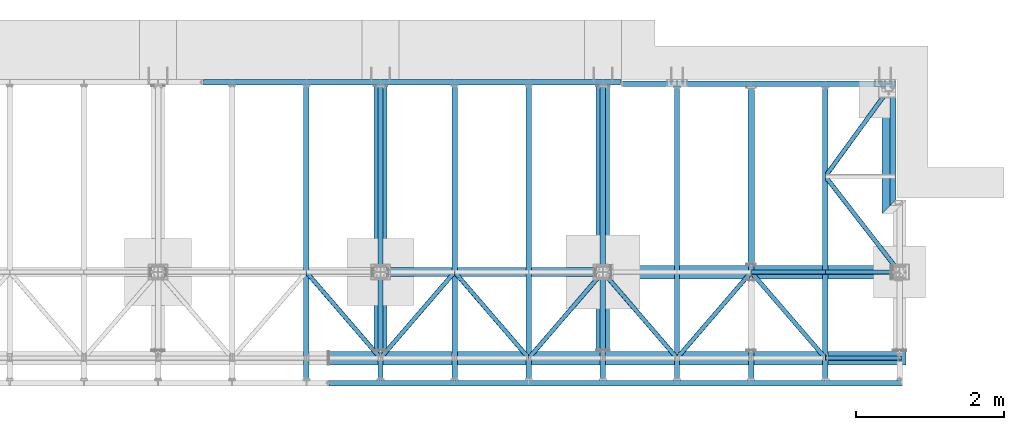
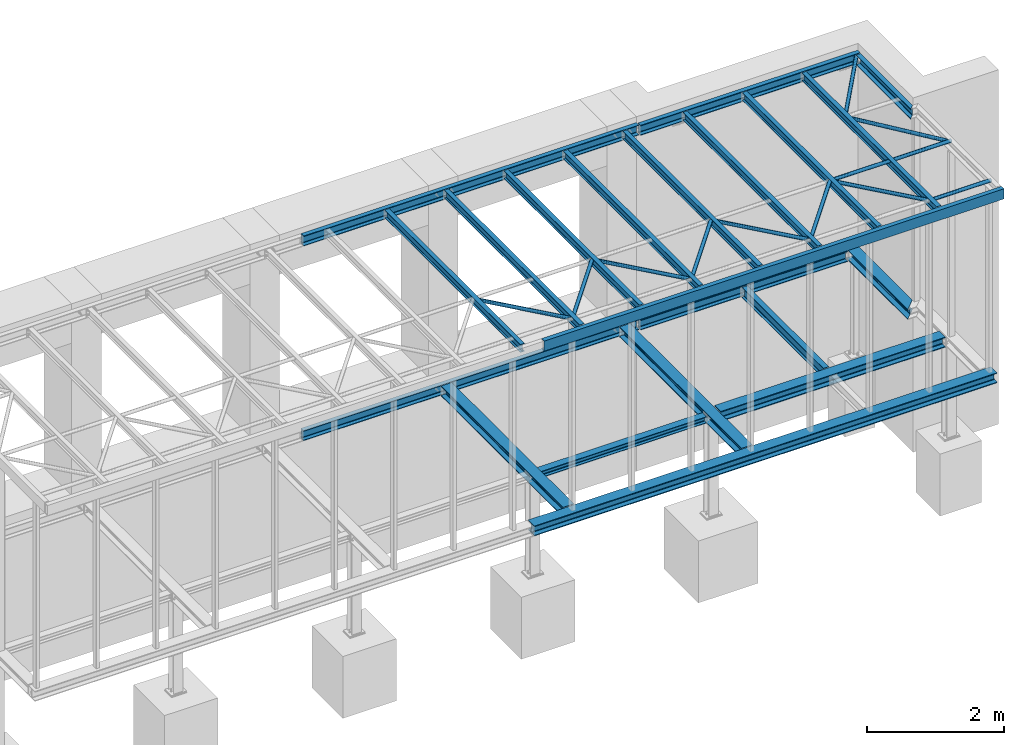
# One storey, part 4 of 22: 33 beams, 33 elements without a shape of their own.
"""IFC2X3 building model written with IfcOpenShell, lengths in millimetres."""

from ifc_helpers import new_model, si_unit, frame, origin_with_axes, origin_2d_with_axis, place, context, subcontext, project, spatial, hollow_circle, i_section, u_section, extrude, boolean, clip, halfspace, material, type_object, element, aggregate, save


model = new_model("IFC2X3")

# Units and contexts
model_context = context("Model", 3, precision=1e-05, world=origin_with_axes())
body_context = subcontext(model_context, "Body", "Model", "MODEL_VIEW")
ifc_project = project(units=[si_unit("LENGTHUNIT", "METRE", prefix="MILLI"), si_unit("AREAUNIT", "SQUARE_METRE"), si_unit("VOLUMEUNIT", "CUBIC_METRE"), si_unit("MASSUNIT", "GRAM", prefix="KILO"), si_unit("TIMEUNIT", "SECOND"), si_unit("PLANEANGLEUNIT", "RADIAN"), si_unit("SOLIDANGLEUNIT", "STERADIAN"), si_unit("THERMODYNAMICTEMPERATUREUNIT", "DEGREE_CELSIUS"), si_unit("LUMINOUSINTENSITYUNIT", "LUMEN")], contexts=[model_context])

# Site, building, storey
site_placement = place(None, origin_with_axes())
site = spatial("IfcSite", under=ifc_project, at=site_placement, Name="Undefined", CompositionType="ELEMENT")
building_placement = place(site_placement, origin_with_axes())
building = spatial("IfcBuilding", under=site, at=building_placement, Name="Undefined", CompositionType="ELEMENT")
storey_placement = place(building_placement, origin_with_axes())
storey = spatial("IfcBuildingStorey", under=building, at=storey_placement, Name="Undefined", CompositionType="ELEMENT", Elevation=0.0)

# Assembly, beam
assembly_1_placement = place(storey_placement, origin_with_axes())
assembly_1 = element("IfcElementAssembly", 1, at=assembly_1_placement, inside=storey, Name="Steel Assembly", AssemblyPlace="NOTDEFINED", PredefinedType="RIGID_FRAME")
ifc_material = material(Name="STEEL/S235JR")
beam_type_1 = type_object("IfcBeamType", Name="IPE180", PredefinedType="NOTDEFINED")
beam_1_placement = place(assembly_1_placement, frame((14050.0, 1370.0, -250.0), z_axis=(0.0, 0.0, 1.0), x_axis=(0.0, 1.0, 0.0)))
beam_1 = element("IfcBeam", 2, at=beam_1_placement, type_object=beam_type_1, material=ifc_material, Name="NOSNÍK", ObjectType="IPE180", context=body_context, shape_type="SweptSolid", body=[
    extrude(i_section(OverallWidth=91.0, OverallDepth=180.0, WebThickness=5.300000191, FlangeThickness=8.0, FilletRadius=9.0, at=origin_2d_with_axis()), frame((2375.0, 0.0, 0.0), z_axis=(-1.0, 0.0, 0.0), x_axis=(0.0, -1.0, 0.0)), (0.0, 0.0, 1.0), 2375.0),
])
aggregate(assembly_1, [beam_1])

assembly_2_placement = place(storey_placement, origin_with_axes())
assembly_2 = element("IfcElementAssembly", 3, at=assembly_2_placement, inside=storey, Name="Steel Assembly", AssemblyPlace="NOTDEFINED", PredefinedType="RIGID_FRAME")
beam_type_2 = type_object("IfcBeamType", Name="HEB180", PredefinedType="NOTDEFINED")
beam_2_placement = place(assembly_2_placement, frame((8360.0, 100.0, -250.0), z_axis=(0.0, 0.0, -1.0), x_axis=(1.0, 0.0, 0.0)))
beam_2 = element("IfcBeam", 4, at=beam_2_placement, type_object=beam_type_2, material=ifc_material, Name="NOSNÍK", ObjectType="HEB180", context=body_context, shape_type="SweptSolid", body=[
    extrude(i_section(OverallWidth=180.0, OverallDepth=180.0, WebThickness=8.5, FlangeThickness=14.0, FilletRadius=15.0, at=origin_2d_with_axis()), frame((7780.0, 0.0, 0.0), z_axis=(-1.0, 0.0, 0.0), x_axis=(0.0, -1.0, 0.0)), (0.0, 0.0, 1.0), 7780.0),
])
aggregate(assembly_2, [beam_2])

assembly_3_placement = place(storey_placement, origin_with_axes())
assembly_3 = element("IfcElementAssembly", 5, at=assembly_3_placement, inside=storey, Name="Steel Assembly", AssemblyPlace="NOTDEFINED", PredefinedType="RIGID_FRAME")
beam_3_placement = place(assembly_3_placement, frame((12160.0, 1260.0, -250.0), z_axis=(0.0, 0.0, -1.0), x_axis=(1.0, 0.0, 0.0)))
beam_3 = element("IfcBeam", 6, at=beam_3_placement, type_object=beam_type_2, material=ifc_material, Name="NOSNÍK", ObjectType="HEB180", context=body_context, shape_type="SweptSolid", body=[
    extrude(i_section(OverallWidth=180.0, OverallDepth=180.0, WebThickness=8.5, FlangeThickness=14.0, FilletRadius=15.0, at=origin_2d_with_axis()), frame((3780.0, 0.0, 0.0), z_axis=(-1.0, 0.0, 0.0), x_axis=(0.0, -1.0, 0.0)), (0.0, 0.0, 1.0), 3780.0),
])
aggregate(assembly_3, [beam_3])

assembly_4_placement = place(storey_placement, origin_with_axes())
assembly_4 = element("IfcElementAssembly", 7, at=assembly_4_placement, inside=storey, Name="Steel Assembly", AssemblyPlace="NOTDEFINED", PredefinedType="RIGID_FRAME")
beam_4_placement = place(assembly_4_placement, frame((15905.0, 3840.0, -250.0), z_axis=(0.0, 0.0, 1.0), x_axis=(0.0, -1.0, 0.0)))
beam_4 = element("IfcBeam", 8, at=beam_4_placement, type_object=beam_type_2, material=ifc_material, Name="NOSNÍK", ObjectType="HEB180", context=body_context, shape_type="Clipping", body=[
    clip(extrude(i_section(OverallWidth=180.0, OverallDepth=180.0, WebThickness=8.5, FlangeThickness=14.0, FilletRadius=15.0, at=origin_2d_with_axis()), frame((1800.0, 0.0, 0.0), z_axis=(-1.0, 0.0, 0.0), x_axis=(0.0, -1.0, 0.0)), (0.0, 0.0, 1.0), 1800.0), halfspace(frame((1600.0, 100.0, 90.0), z_axis=(0.707106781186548, 0.707106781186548, 0.0), x_axis=(0.0, 0.0, -1.0)), False)),
])
aggregate(assembly_4, [beam_4])

assembly_5_placement = place(storey_placement, origin_with_axes())
assembly_5 = element("IfcElementAssembly", 9, at=assembly_5_placement, inside=storey, Name="Steel Assembly", AssemblyPlace="NOTDEFINED", PredefinedType="RIGID_FRAME")
beam_5_placement = place(assembly_5_placement, frame((12050.0, 3767.0, -250.0), z_axis=(0.0, 0.0, 1.0), x_axis=(0.0, -1.0, 0.0)))
beam_5 = element("IfcBeam", 10, at=beam_5_placement, type_object=beam_type_2, material=ifc_material, Name="NOSNÍK", ObjectType="HEB180", context=body_context, shape_type="SweptSolid", body=[
    extrude(i_section(OverallWidth=180.0, OverallDepth=180.0, WebThickness=8.5, FlangeThickness=14.0, FilletRadius=15.0, at=origin_2d_with_axis()), frame((3557.0, 0.0, 0.0), z_axis=(-1.0, 0.0, 0.0), x_axis=(0.0, -1.0, 0.0)), (0.0, 0.0, 1.0), 3557.0),
])
aggregate(assembly_5, [beam_5])

assembly_6_placement = place(storey_placement, origin_with_axes())
assembly_6 = element("IfcElementAssembly", 11, at=assembly_6_placement, inside=storey, Name="Steel Assembly", AssemblyPlace="NOTDEFINED", PredefinedType="RIGID_FRAME")
beam_6_placement = place(assembly_6_placement, frame((9050.0, 3767.0, -250.0), z_axis=(0.0, 0.0, 1.0), x_axis=(0.0, -1.0, 0.0)))
beam_6 = element("IfcBeam", 12, at=beam_6_placement, type_object=beam_type_2, material=ifc_material, Name="NOSNÍK", ObjectType="HEB180", context=body_context, shape_type="SweptSolid", body=[
    extrude(i_section(OverallWidth=180.0, OverallDepth=180.0, WebThickness=8.5, FlangeThickness=14.0, FilletRadius=15.0, at=origin_2d_with_axis()), frame((3557.0, 0.0, 0.0), z_axis=(-1.0, 0.0, 0.0), x_axis=(0.0, -1.0, 0.0)), (0.0, 0.0, 1.0), 3557.0),
])
aggregate(assembly_6, [beam_6])

assembly_7_placement = place(storey_placement, origin_with_axes())
assembly_7 = element("IfcElementAssembly", 13, at=assembly_7_placement, inside=storey, Name="Steel Assembly", AssemblyPlace="NOTDEFINED", PredefinedType="RIGID_FRAME")
beam_type_3 = type_object("IfcBeamType", Name="UPE180", PredefinedType="NOTDEFINED")
beam_7_placement = place(assembly_7_placement, frame((12295.0, 3822.5, -250.0), z_axis=(0.0, 0.0, -1.0), x_axis=(-1.0, 0.0, 0.0)))
beam_7 = element("IfcBeam", 14, at=beam_7_placement, type_object=beam_type_3, material=ifc_material, Name="NOSNÍK", ObjectType="UPE180", context=body_context, shape_type="SweptSolid", body=[
    extrude(u_section(Depth=180.0, FlangeWidth=75.0, WebThickness=5.5, FlangeThickness=10.5, FilletRadius=12.0, at=origin_2d_with_axis()), frame((5635.0, 0.0, 0.0), z_axis=(-1.0, 0.0, 0.0), x_axis=(0.0, -1.0, 0.0)), (0.0, 0.0, 1.0), 5635.0),
])
aggregate(assembly_7, [beam_7])

assembly_8_placement = place(storey_placement, origin_with_axes())
assembly_8 = element("IfcElementAssembly", 15, at=assembly_8_placement, inside=storey, Name="Steel Assembly", AssemblyPlace="NOTDEFINED", PredefinedType="RIGID_FRAME")
beam_8_placement = place(assembly_8_placement, frame((16090.0, -237.5, 3210.0), z_axis=(0.0, 0.0, 1.0), x_axis=(-1.0, 0.0, 0.0)))
beam_8 = element("IfcBeam", 16, at=beam_8_placement, type_object=beam_type_3, material=ifc_material, Name="NOSNÍK", ObjectType="UPE180", context=body_context, shape_type="SweptSolid", body=[
    extrude(u_section(Depth=180.0, FlangeWidth=75.0, WebThickness=5.5, FlangeThickness=10.5, FilletRadius=12.0, at=origin_2d_with_axis()), frame((7730.0, 0.0, 0.0), z_axis=(-1.0, 0.0, 0.0), x_axis=(0.0, -1.0, 0.0)), (0.0, 0.0, 1.0), 7730.0),
])
aggregate(assembly_8, [beam_8])

assembly_9_placement = place(storey_placement, origin_with_axes())
assembly_9 = element("IfcElementAssembly", 17, at=assembly_9_placement, inside=storey, Name="Steel Assembly", AssemblyPlace="NOTDEFINED", PredefinedType="RIGID_FRAME")
beam_9_placement = place(assembly_9_placement, frame((15962.5, 3745.0, 3210.0), z_axis=(0.0, 0.0, 1.0), x_axis=(0.0, -1.0, 0.0)))
beam_9 = element("IfcBeam", 18, at=beam_9_placement, type_object=beam_type_3, material=ifc_material, Name="NOSNÍK", ObjectType="UPE180", context=body_context, shape_type="Clipping", body=[
    clip(extrude(u_section(Depth=180.0, FlangeWidth=75.0, WebThickness=5.5, FlangeThickness=10.5, FilletRadius=12.0, at=origin_2d_with_axis()), frame((1590.0, 0.0, 0.0), z_axis=(-1.0, 0.0, 0.0), x_axis=(0.0, -1.0, 0.0)), (0.0, 0.0, 1.0), 1590.0), halfspace(frame((1515.0, 37.5, 90.0), z_axis=(0.707106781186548, 0.707106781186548, 0.0), x_axis=(0.0, 0.0, -1.0)), False)),
])
aggregate(assembly_9, [beam_9])

assembly_10_placement = place(storey_placement, origin_with_axes())
assembly_10 = element("IfcElementAssembly", 19, at=assembly_10_placement, inside=storey, Name="Steel Assembly", AssemblyPlace="NOTDEFINED", PredefinedType="RIGID_FRAME")
beam_10_placement = place(assembly_10_placement, frame((16005.0, 3802.5, 3210.0), z_axis=(0.0, 0.0, -1.0), x_axis=(-1.0, 0.0, 0.0)))
beam_10 = element("IfcBeam", 20, at=beam_10_placement, type_object=beam_type_3, material=ifc_material, Name="NOSNÍK", ObjectType="UPE180", context=body_context, shape_type="SweptSolid", body=[
    extrude(u_section(Depth=180.0, FlangeWidth=75.0, WebThickness=5.5, FlangeThickness=10.5, FilletRadius=12.0, at=origin_2d_with_axis()), frame((3690.0, 0.0, 0.0), z_axis=(-1.0, 0.0, 0.0), x_axis=(0.0, -1.0, 0.0)), (0.0, 0.0, 1.0), 3690.0),
])
aggregate(assembly_10, [beam_10])

assembly_11_placement = place(storey_placement, origin_with_axes())
assembly_11 = element("IfcElementAssembly", 21, at=assembly_11_placement, inside=storey, Name="Steel Assembly", AssemblyPlace="NOTDEFINED", PredefinedType="RIGID_FRAME")
beam_11_placement = place(assembly_11_placement, frame((12295.0, 3822.5, 3210.0), z_axis=(0.0, 0.0, -1.0), x_axis=(-1.0, 0.0, 0.0)))
beam_11 = element("IfcBeam", 22, at=beam_11_placement, type_object=beam_type_3, material=ifc_material, Name="NOSNÍK", ObjectType="UPE180", context=body_context, shape_type="SweptSolid", body=[
    extrude(u_section(Depth=180.0, FlangeWidth=75.0, WebThickness=5.5, FlangeThickness=10.5, FilletRadius=12.0, at=origin_2d_with_axis()), frame((5635.0, 0.0, 0.0), z_axis=(-1.0, 0.0, 0.0), x_axis=(0.0, -1.0, 0.0)), (0.0, 0.0, 1.0), 5635.0),
])
aggregate(assembly_11, [beam_11])

assembly_12_placement = place(storey_placement, origin_with_axes())
assembly_12 = element("IfcElementAssembly", 23, at=assembly_12_placement, inside=storey, Name="Steel Assembly", AssemblyPlace="NOTDEFINED", PredefinedType="RIGID_FRAME")
beam_12_placement = place(assembly_12_placement, frame((15797.0, 3802.5, -250.0), z_axis=(0.0, 0.0, -1.0), x_axis=(-1.0, 0.0, 0.0)))
beam_12 = element("IfcBeam", 24, at=beam_12_placement, type_object=beam_type_3, material=ifc_material, Name="NOSNÍK", ObjectType="UPE180", context=body_context, shape_type="SweptSolid", body=[
    extrude(u_section(Depth=180.0, FlangeWidth=75.0, WebThickness=5.5, FlangeThickness=10.5, FilletRadius=12.0, at=origin_2d_with_axis()), frame((3482.0, 0.0, 0.0), z_axis=(-1.0, 0.0, 0.0), x_axis=(0.0, -1.0, 0.0)), (0.0, 0.0, 1.0), 3482.0),
])
aggregate(assembly_12, [beam_12])

assembly_13_placement = place(storey_placement, origin_with_axes())
assembly_13 = element("IfcElementAssembly", 25, at=assembly_13_placement, inside=storey, Name="Steel Assembly", AssemblyPlace="NOTDEFINED", PredefinedType="RIGID_FRAME")
beam_type_4 = type_object("IfcBeamType", Name="HEA120", PredefinedType="NOTDEFINED")
beam_13_placement = place(assembly_13_placement, frame((9160.0, 1260.0, -250.0), z_axis=(0.0, 0.0, -1.0), x_axis=(1.0, 0.0, 0.0)))
beam_13 = element("IfcBeam", 26, at=beam_13_placement, type_object=beam_type_4, material=ifc_material, Name="NOSNÍK", ObjectType="HEA120", context=body_context, shape_type="SweptSolid", body=[
    extrude(i_section(OverallWidth=120.0, OverallDepth=114.0, WebThickness=5.0, FlangeThickness=8.0, FilletRadius=12.0, at=origin_2d_with_axis()), frame((2780.0, 0.0, 0.0), z_axis=(-1.0, 0.0, 0.0), x_axis=(0.0, -1.0, 0.0)), (0.0, 0.0, 1.0), 2780.0),
])
aggregate(assembly_13, [beam_13])

assembly_14_placement = place(storey_placement, origin_with_axes())
assembly_14 = element("IfcElementAssembly", 27, at=assembly_14_placement, inside=storey, Name="Steel Assembly", AssemblyPlace="NOTDEFINED", PredefinedType="RIGID_FRAME")
beam_type_5 = type_object("IfcBeamType", Name="CHS60.3*5", PredefinedType="NOTDEFINED")
beam_14_placement = place(assembly_14_placement, frame((15050.0, 2550.0, 3230.0), z_axis=(0.0, 0.0, 1.0), x_axis=(0.612667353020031, -0.79034088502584, 0.0)))
beam_14 = element("IfcBeam", 28, at=beam_14_placement, type_object=beam_type_5, material=ifc_material, Name="NOSNÍK", ObjectType="CHS60.3*5", context=body_context, shape_type="CSG", body=[
    boolean("DIFFERENCE", boolean("DIFFERENCE", boolean("DIFFERENCE", extrude(hollow_circle(Radius=30.15, WallThickness=5.0, at=origin_2d_with_axis()), frame((1632.20709478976, -2.71817084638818e-13, 0.0), z_axis=(-1.0, 0.0, 0.0), x_axis=(0.0, -1.0, 0.0)), (0.0, 0.0, 1.0), 1632.2), extrude(hollow_circle(Radius=30.15, WallThickness=5.0, at=origin_2d_with_axis()), frame((581.421318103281, 750.033499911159, -1.50976120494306e-10), z_axis=(-0.612667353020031, -0.79034088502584, 0.0), x_axis=(-0.79034088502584, 0.612667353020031, 0.0)), (0.0, 0.0, 1.0), 949.0)), extrude(hollow_circle(Radius=30.15, WallThickness=5.0, at=origin_2d_with_axis()), frame((1653.34411846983, 27.2667601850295, -1.50976120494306e-10), z_axis=(-0.612667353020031, -0.79034088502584, 0.0), x_axis=(-0.79034088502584, 0.612667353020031, 0.0)), (0.0, 0.0, 1.0), 1034.5)), halfspace(frame((-35.0578133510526, 30.1500000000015, -30.1500000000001), z_axis=(-0.612667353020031, -0.79034088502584, 0.0), x_axis=(0.0, 0.0, 1.0)), False)),
])
aggregate(assembly_14, [beam_14])

assembly_15_placement = place(storey_placement, origin_with_axes())
assembly_15 = element("IfcElementAssembly", 29, at=assembly_15_placement, inside=storey, Name="Steel Assembly", AssemblyPlace="NOTDEFINED", PredefinedType="RIGID_FRAME")
beam_15_placement = place(assembly_15_placement, frame((15959.75, 3800.0, 3230.0), z_axis=(0.0, 0.0, -1.0), x_axis=(-0.588450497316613, -0.808533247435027, 0.0)))
beam_15 = element("IfcBeam", 30, at=beam_15_placement, type_object=beam_type_5, material=ifc_material, Name="NOSNÍK", ObjectType="CHS60.3*5", context=body_context, shape_type="CSG", body=[
    boolean("DIFFERENCE", boolean("DIFFERENCE", extrude(hollow_circle(Radius=30.15, WallThickness=5.0, at=origin_2d_with_axis()), frame((1546.00939922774, 0.0, 0.0), z_axis=(-1.0, 0.0, 0.0), x_axis=(0.0, -1.0, 0.0)), (0.0, 0.0, 1.0), 1546.0), extrude(hollow_circle(Radius=30.15, WallThickness=5.0, at=origin_2d_with_axis()), frame((987.569877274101, -767.298051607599, 9.09494701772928e-13), z_axis=(0.588450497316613, 0.808533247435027, 0.0), x_axis=(-0.808533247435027, 0.588450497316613, 0.0)), (0.0, 0.0, 1.0), 949.0)), halfspace(frame((1583.44207669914, -30.1499999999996, -30.1500000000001), z_axis=(0.588450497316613, 0.808533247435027, 0.0), x_axis=(0.0, 0.0, 1.0)), False)),
])
aggregate(assembly_15, [beam_15])

assembly_16_placement = place(storey_placement, origin_with_axes())
assembly_16 = element("IfcElementAssembly", 31, at=assembly_16_placement, inside=storey, Name="Steel Assembly", AssemblyPlace="NOTDEFINED", PredefinedType="RIGID_FRAME")
beam_16_placement = place(assembly_16_placement, frame((14049.999999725, 1260.00000021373, 3230.0), z_axis=(0.0, 0.0, -1.0), x_axis=(0.652939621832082, -0.757409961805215, 0.0)))
beam_16 = element("IfcBeam", 32, at=beam_16_placement, type_object=beam_type_5, material=ifc_material, Name="NOSNÍK", ObjectType="CHS60.3*5", context=body_context, shape_type="CSG", body=[
    boolean("DIFFERENCE", boolean("DIFFERENCE", boolean("DIFFERENCE", boolean("DIFFERENCE", extrude(hollow_circle(Radius=30.15, WallThickness=5.0, at=origin_2d_with_axis()), frame((1531.53517752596, -1.81898940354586e-12, 0.0), z_axis=(-1.0, 0.0, 0.0), x_axis=(0.0, -1.0, 0.0)), (0.0, 0.0, 1.0), 1531.5), extrude(hollow_circle(Radius=30.15, WallThickness=5.0, at=origin_2d_with_axis()), frame((652.939622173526, -757.409961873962, 9.09494701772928e-13), z_axis=(-0.652939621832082, 0.757409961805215, 0.0), x_axis=(-0.757409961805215, -0.652939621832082, 0.0)), (0.0, 0.0, 1.0), 997.6)), extrude(hollow_circle(Radius=30.15, WallThickness=5.0, at=origin_2d_with_axis()), frame((1530.00076975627, 1.77991286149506, 9.09494701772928e-13), z_axis=(-0.652939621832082, 0.757409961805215, 0.0), x_axis=(-0.757409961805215, -0.652939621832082, 0.0)), (0.0, 0.0, 1.0), 995.3)), halfspace(frame((38.5731081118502, 30.1499999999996, -30.1499999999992), z_axis=(-0.652939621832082, 0.757409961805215, 0.0), x_axis=(0.0, 0.0, 1.0)), False)), halfspace(frame((1562.91007051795, 30.1499999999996, 30.150000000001), z_axis=(0.652939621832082, -0.757409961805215, 0.0), x_axis=(0.0, 0.0, -1.0)), False)),
])
aggregate(assembly_16, [beam_16])

assembly_17_placement = place(storey_placement, origin_with_axes())
assembly_17 = element("IfcElementAssembly", 33, at=assembly_17_placement, inside=storey, Name="Steel Assembly", AssemblyPlace="NOTDEFINED", PredefinedType="RIGID_FRAME")
beam_17_placement = place(assembly_17_placement, frame((13050.0, 100.0, 3230.0), z_axis=(0.0, 0.0, -1.0), x_axis=(0.652939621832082, 0.757409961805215, 0.0)))
beam_17 = element("IfcBeam", 34, at=beam_17_placement, type_object=beam_type_5, material=ifc_material, Name="NOSNÍK", ObjectType="CHS60.3*5", context=body_context, shape_type="CSG", body=[
    boolean("DIFFERENCE", boolean("DIFFERENCE", boolean("DIFFERENCE", boolean("DIFFERENCE", extrude(hollow_circle(Radius=30.15, WallThickness=5.0, at=origin_2d_with_axis()), frame((1531.53517752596, -1.81898940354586e-12, 0.0), z_axis=(-1.0, 0.0, 0.0), x_axis=(0.0, -1.0, 0.0)), (0.0, 0.0, 1.0), 1531.5), extrude(hollow_circle(Radius=30.15, WallThickness=5.0, at=origin_2d_with_axis()), frame((1530.00076941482, -1.77991293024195, 0.0), z_axis=(-0.652939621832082, -0.757409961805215, 0.0), x_axis=(0.757409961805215, -0.652939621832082, 0.0)), (0.0, 0.0, 1.0), 997.6)), extrude(hollow_circle(Radius=30.15, WallThickness=5.0, at=origin_2d_with_axis()), frame((651.405213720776, 755.630048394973, 0.0), z_axis=(-0.652939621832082, -0.757409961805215, 0.0), x_axis=(0.757409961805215, -0.652939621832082, 0.0)), (0.0, 0.0, 1.0), 995.3)), halfspace(frame((1562.9100704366, -30.1499999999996, -30.1500000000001), z_axis=(0.652939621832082, 0.757409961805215, 0.0), x_axis=(0.0, 0.0, 1.0)), False)), halfspace(frame((-31.3748924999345, 30.1499999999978, -30.1500000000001), z_axis=(-0.652939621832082, -0.757409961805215, 0.0), x_axis=(0.0, 0.0, 1.0)), False)),
])
aggregate(assembly_17, [beam_17])

assembly_18_placement = place(storey_placement, origin_with_axes())
assembly_18 = element("IfcElementAssembly", 35, at=assembly_18_placement, inside=storey, Name="Steel Assembly", AssemblyPlace="NOTDEFINED", PredefinedType="RIGID_FRAME")
beam_18_placement = place(assembly_18_placement, frame((12049.999999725, 1260.00000021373, 3230.0), z_axis=(0.0, 0.0, -1.0), x_axis=(0.652939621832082, -0.757409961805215, 0.0)))
beam_18 = element("IfcBeam", 36, at=beam_18_placement, type_object=beam_type_5, material=ifc_material, Name="NOSNÍK", ObjectType="CHS60.3*5", context=body_context, shape_type="CSG", body=[
    boolean("DIFFERENCE", boolean("DIFFERENCE", boolean("DIFFERENCE", boolean("DIFFERENCE", extrude(hollow_circle(Radius=30.15, WallThickness=5.0, at=origin_2d_with_axis()), frame((1531.53517752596, -1.81898940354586e-12, 0.0), z_axis=(-1.0, 0.0, 0.0), x_axis=(0.0, -1.0, 0.0)), (0.0, 0.0, 1.0), 1531.5), extrude(hollow_circle(Radius=30.15, WallThickness=5.0, at=origin_2d_with_axis()), frame((651.405214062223, -755.630048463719, 0.0), z_axis=(-0.652939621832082, 0.757409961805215, 0.0), x_axis=(-0.757409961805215, -0.652939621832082, 0.0)), (0.0, 0.0, 1.0), 995.3)), extrude(hollow_circle(Radius=30.15, WallThickness=5.0, at=origin_2d_with_axis()), frame((1530.00076975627, 1.77991286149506, 9.09494701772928e-13), z_axis=(-0.652939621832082, 0.757409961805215, 0.0), x_axis=(-0.757409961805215, -0.652939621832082, 0.0)), (0.0, 0.0, 1.0), 995.3)), halfspace(frame((38.5731081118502, 30.1499999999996, -30.1499999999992), z_axis=(-0.652939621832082, 0.757409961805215, 0.0), x_axis=(0.0, 0.0, 1.0)), False)), halfspace(frame((1562.91007051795, 30.1499999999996, 30.150000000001), z_axis=(0.652939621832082, -0.757409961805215, 0.0), x_axis=(0.0, 0.0, -1.0)), False)),
])
aggregate(assembly_18, [beam_18])

assembly_19_placement = place(storey_placement, origin_with_axes())
assembly_19 = element("IfcElementAssembly", 37, at=assembly_19_placement, inside=storey, Name="Steel Assembly", AssemblyPlace="NOTDEFINED", PredefinedType="RIGID_FRAME")
beam_19_placement = place(assembly_19_placement, frame((11050.0, 100.0, 3230.0), z_axis=(0.0, 0.0, -1.0), x_axis=(0.652939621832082, 0.757409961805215, 0.0)))
beam_19 = element("IfcBeam", 38, at=beam_19_placement, type_object=beam_type_5, material=ifc_material, Name="NOSNÍK", ObjectType="CHS60.3*5", context=body_context, shape_type="CSG", body=[
    boolean("DIFFERENCE", boolean("DIFFERENCE", boolean("DIFFERENCE", boolean("DIFFERENCE", extrude(hollow_circle(Radius=30.15, WallThickness=5.0, at=origin_2d_with_axis()), frame((1531.53517752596, -1.81898940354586e-12, 0.0), z_axis=(-1.0, 0.0, 0.0), x_axis=(0.0, -1.0, 0.0)), (0.0, 0.0, 1.0), 1531.5), extrude(hollow_circle(Radius=30.15, WallThickness=5.0, at=origin_2d_with_axis()), frame((1530.00076941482, -1.77991293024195, 0.0), z_axis=(-0.652939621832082, -0.757409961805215, 0.0), x_axis=(0.757409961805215, -0.652939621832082, 0.0)), (0.0, 0.0, 1.0), 995.3)), extrude(hollow_circle(Radius=30.15, WallThickness=5.0, at=origin_2d_with_axis()), frame((651.405213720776, 755.630048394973, 0.0), z_axis=(-0.652939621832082, -0.757409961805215, 0.0), x_axis=(0.757409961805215, -0.652939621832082, 0.0)), (0.0, 0.0, 1.0), 995.3)), halfspace(frame((1562.9100704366, -30.1499999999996, -30.1500000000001), z_axis=(0.652939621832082, 0.757409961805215, 0.0), x_axis=(0.0, 0.0, 1.0)), False)), halfspace(frame((-31.3748924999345, 30.1499999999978, -30.1500000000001), z_axis=(-0.652939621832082, -0.757409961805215, 0.0), x_axis=(0.0, 0.0, 1.0)), False)),
])
aggregate(assembly_19, [beam_19])

assembly_20_placement = place(storey_placement, origin_with_axes())
assembly_20 = element("IfcElementAssembly", 39, at=assembly_20_placement, inside=storey, Name="Steel Assembly", AssemblyPlace="NOTDEFINED", PredefinedType="RIGID_FRAME")
beam_20_placement = place(assembly_20_placement, frame((10049.999999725, 1260.00000021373, 3230.0), z_axis=(0.0, 0.0, -1.0), x_axis=(0.652939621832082, -0.757409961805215, 0.0)))
beam_20 = element("IfcBeam", 40, at=beam_20_placement, type_object=beam_type_5, material=ifc_material, Name="NOSNÍK", ObjectType="CHS60.3*5", context=body_context, shape_type="CSG", body=[
    boolean("DIFFERENCE", boolean("DIFFERENCE", boolean("DIFFERENCE", boolean("DIFFERENCE", extrude(hollow_circle(Radius=30.15, WallThickness=5.0, at=origin_2d_with_axis()), frame((1531.53517752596, -1.81898940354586e-12, 0.0), z_axis=(-1.0, 0.0, 0.0), x_axis=(0.0, -1.0, 0.0)), (0.0, 0.0, 1.0), 1531.5), extrude(hollow_circle(Radius=30.15, WallThickness=5.0, at=origin_2d_with_axis()), frame((651.405214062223, -755.630048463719, 0.0), z_axis=(-0.652939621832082, 0.757409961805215, 0.0), x_axis=(-0.757409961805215, -0.652939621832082, 0.0)), (0.0, 0.0, 1.0), 995.3)), extrude(hollow_circle(Radius=30.15, WallThickness=5.0, at=origin_2d_with_axis()), frame((1530.00076975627, 1.77991286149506, 9.09494701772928e-13), z_axis=(-0.652939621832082, 0.757409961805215, 0.0), x_axis=(-0.757409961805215, -0.652939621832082, 0.0)), (0.0, 0.0, 1.0), 995.3)), halfspace(frame((38.5731081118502, 30.1499999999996, -30.1499999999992), z_axis=(-0.652939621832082, 0.757409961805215, 0.0), x_axis=(0.0, 0.0, 1.0)), False)), halfspace(frame((1562.91007051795, 30.1499999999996, 30.150000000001), z_axis=(0.652939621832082, -0.757409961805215, 0.0), x_axis=(0.0, 0.0, -1.0)), False)),
])
aggregate(assembly_20, [beam_20])

assembly_21_placement = place(storey_placement, origin_with_axes())
assembly_21 = element("IfcElementAssembly", 41, at=assembly_21_placement, inside=storey, Name="Steel Assembly", AssemblyPlace="NOTDEFINED", PredefinedType="RIGID_FRAME")
beam_21_placement = place(assembly_21_placement, frame((9050.0, 100.0, 3230.0), z_axis=(0.0, 0.0, -1.0), x_axis=(0.652939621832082, 0.757409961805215, 0.0)))
beam_21 = element("IfcBeam", 42, at=beam_21_placement, type_object=beam_type_5, material=ifc_material, Name="NOSNÍK", ObjectType="CHS60.3*5", context=body_context, shape_type="CSG", body=[
    boolean("DIFFERENCE", boolean("DIFFERENCE", boolean("DIFFERENCE", boolean("DIFFERENCE", extrude(hollow_circle(Radius=30.15, WallThickness=5.0, at=origin_2d_with_axis()), frame((1531.53517752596, -1.81898940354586e-12, 0.0), z_axis=(-1.0, 0.0, 0.0), x_axis=(0.0, -1.0, 0.0)), (0.0, 0.0, 1.0), 1531.5), extrude(hollow_circle(Radius=30.15, WallThickness=5.0, at=origin_2d_with_axis()), frame((1530.00076941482, -1.77991293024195, 0.0), z_axis=(-0.652939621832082, -0.757409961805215, 0.0), x_axis=(0.757409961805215, -0.652939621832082, 0.0)), (0.0, 0.0, 1.0), 995.3)), extrude(hollow_circle(Radius=30.15, WallThickness=5.0, at=origin_2d_with_axis()), frame((651.405213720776, 755.630048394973, 0.0), z_axis=(-0.652939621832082, -0.757409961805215, 0.0), x_axis=(0.757409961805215, -0.652939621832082, 0.0)), (0.0, 0.0, 1.0), 995.3)), halfspace(frame((1562.9100704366, -30.1499999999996, -30.1500000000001), z_axis=(0.652939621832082, 0.757409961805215, 0.0), x_axis=(0.0, 0.0, 1.0)), False)), halfspace(frame((-31.3748924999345, 30.1499999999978, -30.1500000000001), z_axis=(-0.652939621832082, -0.757409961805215, 0.0), x_axis=(0.0, 0.0, 1.0)), False)),
])
aggregate(assembly_21, [beam_21])

assembly_22_placement = place(storey_placement, origin_with_axes())
assembly_22 = element("IfcElementAssembly", 43, at=assembly_22_placement, inside=storey, Name="Steel Assembly", AssemblyPlace="NOTDEFINED", PredefinedType="RIGID_FRAME")
beam_22_placement = place(assembly_22_placement, frame((8049.99999972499, 1260.00000021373, 3230.0), z_axis=(0.0, 0.0, -1.0), x_axis=(0.652939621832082, -0.757409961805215, 0.0)))
beam_22 = element("IfcBeam", 44, at=beam_22_placement, type_object=beam_type_5, material=ifc_material, Name="NOSNÍK", ObjectType="CHS60.3*5", context=body_context, shape_type="CSG", body=[
    boolean("DIFFERENCE", boolean("DIFFERENCE", boolean("DIFFERENCE", boolean("DIFFERENCE", extrude(hollow_circle(Radius=30.15, WallThickness=5.0, at=origin_2d_with_axis()), frame((1531.53517752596, -1.81898940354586e-12, 0.0), z_axis=(-1.0, 0.0, 0.0), x_axis=(0.0, -1.0, 0.0)), (0.0, 0.0, 1.0), 1531.5), extrude(hollow_circle(Radius=30.15, WallThickness=5.0, at=origin_2d_with_axis()), frame((651.405214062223, -755.630048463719, 0.0), z_axis=(-0.652939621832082, 0.757409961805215, 0.0), x_axis=(-0.757409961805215, -0.652939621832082, 0.0)), (0.0, 0.0, 1.0), 995.3)), extrude(hollow_circle(Radius=30.15, WallThickness=5.0, at=origin_2d_with_axis()), frame((1530.00076975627, 1.77991286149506, 9.09494701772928e-13), z_axis=(-0.652939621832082, 0.757409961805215, 0.0), x_axis=(-0.757409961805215, -0.652939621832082, 0.0)), (0.0, 0.0, 1.0), 995.3)), halfspace(frame((38.5731081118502, 30.1499999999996, -30.1499999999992), z_axis=(-0.652939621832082, 0.757409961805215, 0.0), x_axis=(0.0, 0.0, 1.0)), False)), halfspace(frame((1562.91007051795, 30.1499999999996, 30.150000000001), z_axis=(0.652939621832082, -0.757409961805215, 0.0), x_axis=(0.0, 0.0, -1.0)), False)),
])
aggregate(assembly_22, [beam_22])

assembly_23_placement = place(storey_placement, origin_with_axes())
assembly_23 = element("IfcElementAssembly", 45, at=assembly_23_placement, inside=storey, Name="Steel Assembly", AssemblyPlace="NOTDEFINED", PredefinedType="RIGID_FRAME")
beam_23_placement = place(assembly_23_placement, frame((15052.35, 100.0, 3230.0), z_axis=(0.0, 0.0, -1.0), x_axis=(1.0, 0.0, 0.0)))
beam_23 = element("IfcBeam", 46, at=beam_23_placement, type_object=beam_type_5, material=ifc_material, Name="NOSNÍK", ObjectType="CHS60.3*5", context=body_context, shape_type="SweptSolid", body=[
    extrude(hollow_circle(Radius=30.15, WallThickness=5.0, at=origin_2d_with_axis()), frame((1032.15, 0.0, 0.0), z_axis=(-1.0, 0.0, 0.0), x_axis=(0.0, -1.0, 0.0)), (0.0, 0.0, 1.0), 1032.1),
])
aggregate(assembly_23, [beam_23])

assembly_24_placement = place(storey_placement, origin_with_axes())
assembly_24 = element("IfcElementAssembly", 47, at=assembly_24_placement, inside=storey, Name="Steel Assembly", AssemblyPlace="NOTDEFINED", PredefinedType="RIGID_FRAME")
beam_24_placement = place(assembly_24_placement, frame((15050.0, 1260.0, 3230.0), z_axis=(0.0, 0.0, -1.0), x_axis=(1.0, 0.0, 0.0)))
beam_24 = element("IfcBeam", 48, at=beam_24_placement, type_object=beam_type_5, material=ifc_material, Name="NOSNÍK", ObjectType="CHS60.3*5", context=body_context, shape_type="SweptSolid", body=[
    extrude(hollow_circle(Radius=30.15, WallThickness=5.0, at=origin_2d_with_axis()), frame((1034.5, 0.0, 0.0), z_axis=(-1.0, 0.0, 0.0), x_axis=(0.0, -1.0, 0.0)), (0.0, 0.0, 1.0), 1034.5),
])
aggregate(assembly_24, [beam_24])

assembly_25_placement = place(storey_placement, origin_with_axes())
assembly_25 = element("IfcElementAssembly", 49, at=assembly_25_placement, inside=storey, Name="Steel Assembly", AssemblyPlace="NOTDEFINED", PredefinedType="RIGID_FRAME")
beam_25_placement = place(assembly_25_placement, frame((14052.35, 1260.0, 3230.0), z_axis=(0.0, 0.0, -1.0), x_axis=(1.0, 0.0, 0.0)))
beam_25 = element("IfcBeam", 50, at=beam_25_placement, type_object=beam_type_5, material=ifc_material, Name="NOSNÍK", ObjectType="CHS60.3*5", context=body_context, shape_type="SweptSolid", body=[
    extrude(hollow_circle(Radius=30.15, WallThickness=5.0, at=origin_2d_with_axis()), frame((997.65, 0.0, 0.0), z_axis=(-1.0, 0.0, 0.0), x_axis=(0.0, -1.0, 0.0)), (0.0, 0.0, 1.0), 997.6),
])
aggregate(assembly_25, [beam_25])

assembly_26_placement = place(storey_placement, origin_with_axes())
assembly_26 = element("IfcElementAssembly", 51, at=assembly_26_placement, inside=storey, Name="Steel Assembly", AssemblyPlace="NOTDEFINED", PredefinedType="RIGID_FRAME")
beam_type_6 = type_object("IfcBeamType", Name="IPE140", PredefinedType="NOTDEFINED")
beam_26_placement = place(assembly_26_placement, frame((8050.0, -180.0, 3230.0), z_axis=(0.0, 0.0, 1.0), x_axis=(0.0, 1.0, 0.0)))
beam_26 = element("IfcBeam", 52, at=beam_26_placement, type_object=beam_type_6, material=ifc_material, Name="NOSNÍK", ObjectType="IPE140", context=body_context, shape_type="SweptSolid", body=[
    extrude(i_section(OverallWidth=73.0, OverallDepth=140.0, WebThickness=4.699999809, FlangeThickness=6.900000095, FilletRadius=7.0, at=origin_2d_with_axis()), frame((3947.0, 0.0, 0.0), z_axis=(-1.0, 0.0, 0.0), x_axis=(0.0, -1.0, 0.0)), (0.0, 0.0, 1.0), 3947.0),
])
aggregate(assembly_26, [beam_26])

assembly_27_placement = place(storey_placement, origin_with_axes())
assembly_27 = element("IfcElementAssembly", 53, at=assembly_27_placement, inside=storey, Name="Steel Assembly", AssemblyPlace="NOTDEFINED", PredefinedType="RIGID_FRAME")
beam_27_placement = place(assembly_27_placement, frame((9050.0, -180.0, 3230.0), z_axis=(0.0, 0.0, 1.0), x_axis=(0.0, 1.0, 0.0)))
beam_27 = element("IfcBeam", 54, at=beam_27_placement, type_object=beam_type_6, material=ifc_material, Name="NOSNÍK", ObjectType="IPE140", context=body_context, shape_type="SweptSolid", body=[
    extrude(i_section(OverallWidth=73.0, OverallDepth=140.0, WebThickness=4.699999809, FlangeThickness=6.900000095, FilletRadius=7.0, at=origin_2d_with_axis()), frame((3947.0, 0.0, 0.0), z_axis=(-1.0, 0.0, 0.0), x_axis=(0.0, -1.0, 0.0)), (0.0, 0.0, 1.0), 3947.0),
])
aggregate(assembly_27, [beam_27])

assembly_28_placement = place(storey_placement, origin_with_axes())
assembly_28 = element("IfcElementAssembly", 55, at=assembly_28_placement, inside=storey, Name="Steel Assembly", AssemblyPlace="NOTDEFINED", PredefinedType="RIGID_FRAME")
beam_28_placement = place(assembly_28_placement, frame((10050.0, -180.0, 3230.0), z_axis=(0.0, 0.0, 1.0), x_axis=(0.0, 1.0, 0.0)))
beam_28 = element("IfcBeam", 56, at=beam_28_placement, type_object=beam_type_6, material=ifc_material, Name="NOSNÍK", ObjectType="IPE140", context=body_context, shape_type="SweptSolid", body=[
    extrude(i_section(OverallWidth=73.0, OverallDepth=140.0, WebThickness=4.699999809, FlangeThickness=6.900000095, FilletRadius=7.0, at=origin_2d_with_axis()), frame((3947.0, 0.0, 0.0), z_axis=(-1.0, 0.0, 0.0), x_axis=(0.0, -1.0, 0.0)), (0.0, 0.0, 1.0), 3947.0),
])
aggregate(assembly_28, [beam_28])

assembly_29_placement = place(storey_placement, origin_with_axes())
assembly_29 = element("IfcElementAssembly", 57, at=assembly_29_placement, inside=storey, Name="Steel Assembly", AssemblyPlace="NOTDEFINED", PredefinedType="RIGID_FRAME")
beam_29_placement = place(assembly_29_placement, frame((11050.0, -180.0, 3230.0), z_axis=(0.0, 0.0, 1.0), x_axis=(0.0, 1.0, 0.0)))
beam_29 = element("IfcBeam", 58, at=beam_29_placement, type_object=beam_type_6, material=ifc_material, Name="NOSNÍK", ObjectType="IPE140", context=body_context, shape_type="SweptSolid", body=[
    extrude(i_section(OverallWidth=73.0, OverallDepth=140.0, WebThickness=4.699999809, FlangeThickness=6.900000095, FilletRadius=7.0, at=origin_2d_with_axis()), frame((3947.0, 0.0, 0.0), z_axis=(-1.0, 0.0, 0.0), x_axis=(0.0, -1.0, 0.0)), (0.0, 0.0, 1.0), 3947.0),
])
aggregate(assembly_29, [beam_29])

assembly_30_placement = place(storey_placement, origin_with_axes())
assembly_30 = element("IfcElementAssembly", 59, at=assembly_30_placement, inside=storey, Name="Steel Assembly", AssemblyPlace="NOTDEFINED", PredefinedType="RIGID_FRAME")
beam_30_placement = place(assembly_30_placement, frame((15050.0, -180.0, 3230.0), z_axis=(0.0, 0.0, 1.0), x_axis=(0.0, 1.0, 0.0)))
beam_30 = element("IfcBeam", 60, at=beam_30_placement, type_object=beam_type_6, material=ifc_material, Name="NOSNÍK", ObjectType="IPE140", context=body_context, shape_type="SweptSolid", body=[
    extrude(i_section(OverallWidth=73.0, OverallDepth=140.0, WebThickness=4.699999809, FlangeThickness=6.900000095, FilletRadius=7.0, at=origin_2d_with_axis()), frame((3927.0, 0.0, 0.0), z_axis=(-1.0, 0.0, 0.0), x_axis=(0.0, -1.0, 0.0)), (0.0, 0.0, 1.0), 3927.0),
])
aggregate(assembly_30, [beam_30])

assembly_31_placement = place(storey_placement, origin_with_axes())
assembly_31 = element("IfcElementAssembly", 61, at=assembly_31_placement, inside=storey, Name="Steel Assembly", AssemblyPlace="NOTDEFINED", PredefinedType="RIGID_FRAME")
beam_31_placement = place(assembly_31_placement, frame((14050.0, -180.0, 3230.0), z_axis=(0.0, 0.0, 1.0), x_axis=(0.0, 1.0, 0.0)))
beam_31 = element("IfcBeam", 62, at=beam_31_placement, type_object=beam_type_6, material=ifc_material, Name="NOSNÍK", ObjectType="IPE140", context=body_context, shape_type="SweptSolid", body=[
    extrude(i_section(OverallWidth=73.0, OverallDepth=140.0, WebThickness=4.699999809, FlangeThickness=6.900000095, FilletRadius=7.0, at=origin_2d_with_axis()), frame((3927.0, 0.0, 0.0), z_axis=(-1.0, 0.0, 0.0), x_axis=(0.0, -1.0, 0.0)), (0.0, 0.0, 1.0), 3927.0),
])
aggregate(assembly_31, [beam_31])

assembly_32_placement = place(storey_placement, origin_with_axes())
assembly_32 = element("IfcElementAssembly", 63, at=assembly_32_placement, inside=storey, Name="Steel Assembly", AssemblyPlace="NOTDEFINED", PredefinedType="RIGID_FRAME")
beam_32_placement = place(assembly_32_placement, frame((13050.0, -180.0, 3230.0), z_axis=(0.0, 0.0, 1.0), x_axis=(0.0, 1.0, 0.0)))
beam_32 = element("IfcBeam", 64, at=beam_32_placement, type_object=beam_type_6, material=ifc_material, Name="NOSNÍK", ObjectType="IPE140", context=body_context, shape_type="SweptSolid", body=[
    extrude(i_section(OverallWidth=73.0, OverallDepth=140.0, WebThickness=4.699999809, FlangeThickness=6.900000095, FilletRadius=7.0, at=origin_2d_with_axis()), frame((3927.0, 0.0, 0.0), z_axis=(-1.0, 0.0, 0.0), x_axis=(0.0, -1.0, 0.0)), (0.0, 0.0, 1.0), 3927.0),
])
aggregate(assembly_32, [beam_32])

assembly_33_placement = place(storey_placement, origin_with_axes())
assembly_33 = element("IfcElementAssembly", 65, at=assembly_33_placement, inside=storey, Name="Steel Assembly", AssemblyPlace="NOTDEFINED", PredefinedType="RIGID_FRAME")
beam_33_placement = place(assembly_33_placement, frame((12050.0, -180.0, 3230.0), z_axis=(0.0, 0.0, 1.0), x_axis=(0.0, 1.0, 0.0)))
beam_33 = element("IfcBeam", 66, at=beam_33_placement, type_object=beam_type_6, material=ifc_material, Name="NOSNÍK", ObjectType="IPE140", context=body_context, shape_type="SweptSolid", body=[
    extrude(i_section(OverallWidth=73.0, OverallDepth=140.0, WebThickness=4.699999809, FlangeThickness=6.900000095, FilletRadius=7.0, at=origin_2d_with_axis()), frame((3947.0, 0.0, 0.0), z_axis=(-1.0, 0.0, 0.0), x_axis=(0.0, -1.0, 0.0)), (0.0, 0.0, 1.0), 3947.0),
])
aggregate(assembly_33, [beam_33])

save(model, "model.ifc")
